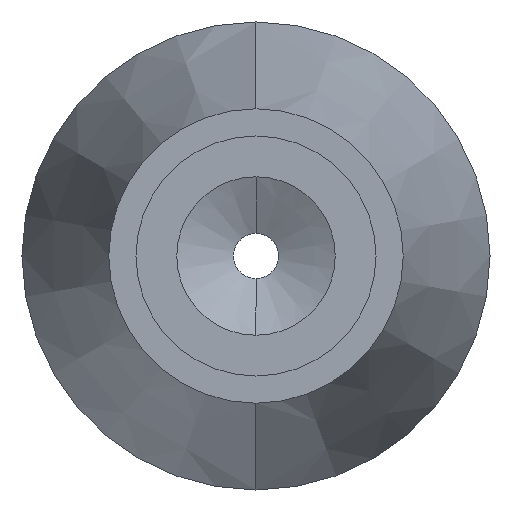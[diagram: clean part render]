
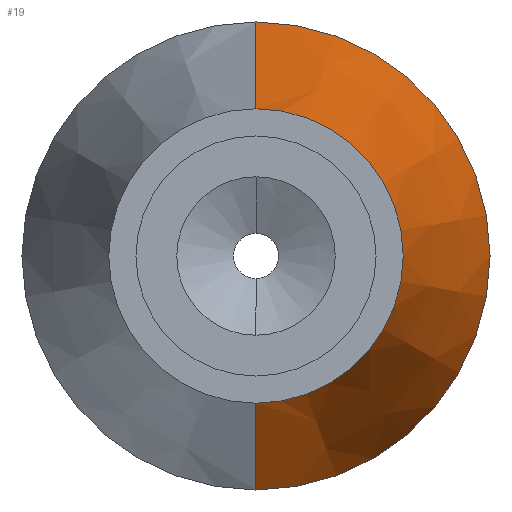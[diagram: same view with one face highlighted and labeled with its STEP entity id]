
A CAD part, left-side view. The second image highlights one B-rep face of the part: STEP entity #19.
In plain terms, the highlighted conical face has half-angle 15 degrees and reference radius 1.95 mm.
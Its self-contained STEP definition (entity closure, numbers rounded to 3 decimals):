
#19 = ADVANCED_FACE ( 'NONE', ( #532 ), #531, .T. ) ;
#20 = EDGE_LOOP ( 'NONE', ( #21, #25, #28, #31 ) ) ;
#21 = ORIENTED_EDGE ( 'NONE', *, *, #22, .F. ) ;
#22 = EDGE_CURVE ( 'NONE', #23, #24, #358, .T. ) ;
#23 = VERTEX_POINT ( 'NONE', #353 ) ;
#24 = VERTEX_POINT ( 'NONE', #352 ) ;
#25 = ORIENTED_EDGE ( 'NONE', *, *, #26, .T. ) ;
#26 = EDGE_CURVE ( 'NONE', #23, #27, #351, .T. ) ;
#27 = VERTEX_POINT ( 'NONE', #347 ) ;
#28 = ORIENTED_EDGE ( 'NONE', *, *, #29, .T. ) ;
#29 = EDGE_CURVE ( 'NONE', #27, #30, #346, .T. ) ;
#30 = VERTEX_POINT ( 'NONE', #341 ) ;
#31 = ORIENTED_EDGE ( 'NONE', *, *, #32, .F. ) ;
#32 = EDGE_CURVE ( 'NONE', #24, #30, #340, .T. ) ;
#337 = DIRECTION ( 'NONE',  ( 0.966, 0., 0.259 ) ) ;
#338 = VECTOR ( 'NONE', #337, 1000. ) ;
#339 = CARTESIAN_POINT ( 'NONE',  ( 4.06, 0., 1.95 ) ) ;
#340 = LINE ( 'NONE', #339, #338 ) ;
#341 = CARTESIAN_POINT ( 'NONE',  ( 8.352, 0., 3.1 ) ) ;
#342 = DIRECTION ( 'NONE',  ( 0., 0., -1. ) ) ;
#343 = DIRECTION ( 'NONE',  ( -1., 0., 0. ) ) ;
#344 = CARTESIAN_POINT ( 'NONE',  ( 8.352, 0., 0. ) ) ;
#345 = AXIS2_PLACEMENT_3D ( 'NONE', #344, #343, #342 ) ;
#346 = CIRCLE ( 'NONE', #345, 3.1 ) ;
#347 = CARTESIAN_POINT ( 'NONE',  ( 8.352, 0., -3.1 ) ) ;
#348 = DIRECTION ( 'NONE',  ( 0.966, 0., -0.259 ) ) ;
#349 = VECTOR ( 'NONE', #348, 1000. ) ;
#350 = CARTESIAN_POINT ( 'NONE',  ( 4.06, 0., -1.95 ) ) ;
#351 = LINE ( 'NONE', #350, #349 ) ;
#352 = CARTESIAN_POINT ( 'NONE',  ( 4.06, 0., 1.95 ) ) ;
#353 = CARTESIAN_POINT ( 'NONE',  ( 4.06, 0., -1.95 ) ) ;
#354 = DIRECTION ( 'NONE',  ( 0., 0., 1. ) ) ;
#355 = DIRECTION ( 'NONE',  ( -1., 0., 0. ) ) ;
#356 = CARTESIAN_POINT ( 'NONE',  ( 4.06, 0., 0. ) ) ;
#357 = AXIS2_PLACEMENT_3D ( 'NONE', #356, #355, #354 ) ;
#358 = CIRCLE ( 'NONE', #357, 1.95 ) ;
#383 = DIRECTION ( 'NONE',  ( 0., 0., 1. ) ) ;
#384 = DIRECTION ( 'NONE',  ( 1., 0., 0. ) ) ;
#385 = AXIS2_PLACEMENT_3D ( 'NONE', #530, #384, #383 ) ;
#530 = CARTESIAN_POINT ( 'NONE',  ( 4.06, 0., 0. ) ) ;
#531 = CONICAL_SURFACE ( 'NONE', #385, 1.95, 0.262 ) ;
#532 = FACE_OUTER_BOUND ( 'NONE', #20, .T. ) ;
